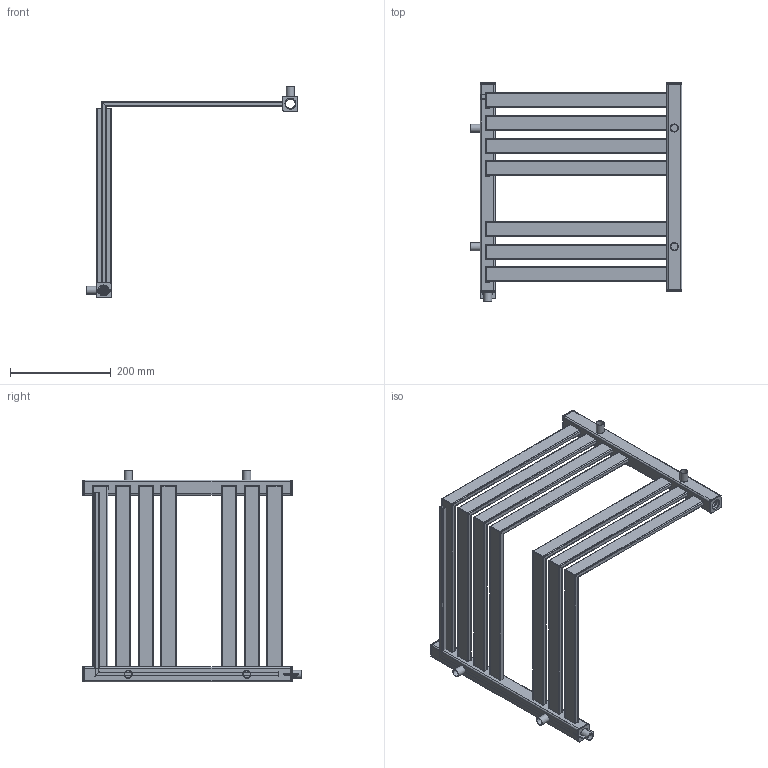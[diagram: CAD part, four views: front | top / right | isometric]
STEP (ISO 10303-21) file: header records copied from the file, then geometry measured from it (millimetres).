
FILE_DESCRIPTION( ( 'Unknown' ), '1' );
FILE_NAME( 'D:/Alplast sp. j/Witryna zespoBu - Projekty/Archiwum/Grzejniki Archiwum/Projekty/DESIGN PROGRAM/CORNER ALFA I BETA/CORNER BETA 1.stp', 'Unknown', ( 'Unknown' ), ( 'Unknown' ), 'PSStep 10.1', 'Unknown', ' ' );
FILE_SCHEMA( ( 'AUTOMOTIVE_DESIGN { 1 0 10303 214 1 1 1 1 }' ) );
Length unit declared in the file: millimetre
Products named in the file (6): Assem1; kana³ po giêciu; kana³y 30x10 czêœæ do giêcia; AK1-N; zaslepka kwadrat otwor; mocowanie
Bounding box: 420 x 433 x 420 mm (x, y, z)
Volume: 787710.1 mm3; surface area: 1173803.5 mm2
Topology: 30 solids, 30 shells, 736 faces, 2015 edges, 1332 vertices
Faces by surface type: plane 405, cylinder 321, torus 10
Full cylindrical faces by diameter (mm): 14 x5, 16 x5, 18.631 x5, 23 x5
Entity records: 5184 total; most frequent: DIRECTION 741, CARTESIAN_POINT 725, ORIENTED_EDGE 670, EDGE_CURVE 335, AXIS2_PLACEMENT_3D 264, VERTEX_POINT 226, LINE 213, VECTOR 213
